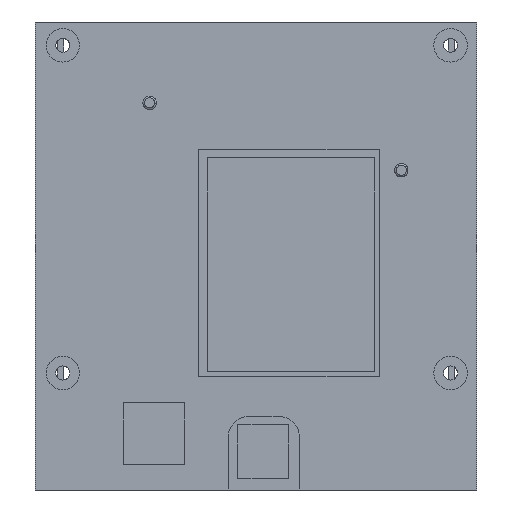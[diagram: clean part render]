
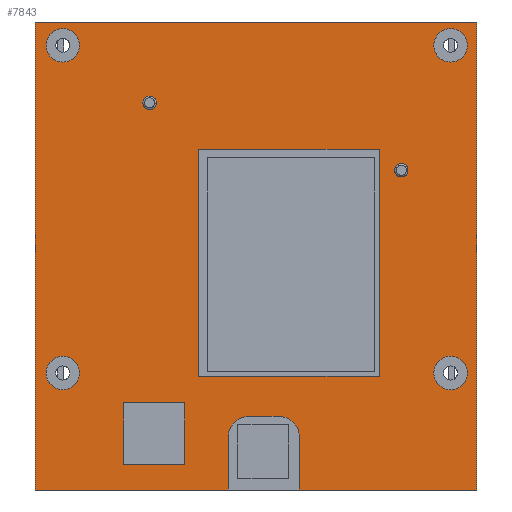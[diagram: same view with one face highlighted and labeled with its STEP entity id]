
A CAD part, front view. The second image highlights one B-rep face of the part: STEP entity #7843.
In plain terms, the highlighted planar face has unit normal (0, -1, 0).
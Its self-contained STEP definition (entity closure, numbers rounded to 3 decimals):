
#2=DIRECTION('',(-1.,0.,0.));
#3=VECTOR('',#2,66.);
#4=CARTESIAN_POINT('',(33.5,1.3,0.));
#5=LINE('',#4,#3);
#416=DIRECTION('',(0.,0.,-1.));
#417=VECTOR('',#416,70.);
#418=CARTESIAN_POINT('',(33.5,1.3,0.));
#419=LINE('',#418,#417);
#420=DIRECTION('',(-1.,0.,0.));
#421=VECTOR('',#420,26.535);
#422=CARTESIAN_POINT('',(33.5,1.3,-70.));
#423=LINE('',#422,#421);
#424=CARTESIAN_POINT('',(3.965,1.3,-61.995));
#425=DIRECTION('',(0.,-1.,0.));
#426=DIRECTION('',(1.,0.,0.));
#427=AXIS2_PLACEMENT_3D('',#424,#425,#426);
#429=CARTESIAN_POINT('',(-0.635,1.3,-61.995));
#430=DIRECTION('',(0.,-1.,0.));
#431=DIRECTION('',(0.,0.,1.));
#432=AXIS2_PLACEMENT_3D('',#429,#430,#431);
#434=DIRECTION('',(-1.,0.,0.));
#435=VECTOR('',#434,28.865);
#436=CARTESIAN_POINT('',(-3.635,1.3,-70.));
#437=LINE('',#436,#435);
#438=DIRECTION('',(-1.,0.,0.));
#439=VECTOR('',#438,27.);
#440=CARTESIAN_POINT('',(18.92,1.3,-19.));
#441=LINE('',#440,#439);
#442=DIRECTION('',(0.,0.,-1.));
#443=VECTOR('',#442,34.);
#444=CARTESIAN_POINT('',(-8.08,1.3,-19.));
#445=LINE('',#444,#443);
#446=DIRECTION('',(1.,0.,0.));
#447=VECTOR('',#446,27.);
#448=CARTESIAN_POINT('',(-8.08,1.3,-53.));
#449=LINE('',#448,#447);
#450=DIRECTION('',(0.,0.,1.));
#451=VECTOR('',#450,34.);
#452=CARTESIAN_POINT('',(18.92,1.3,-53.));
#453=LINE('',#452,#451);
#454=CARTESIAN_POINT('',(22.233,1.3,-22.177));
#455=DIRECTION('',(0.,-1.,0.));
#456=DIRECTION('',(-1.,0.,0.));
#457=AXIS2_PLACEMENT_3D('',#454,#455,#456);
#459=CARTESIAN_POINT('',(22.233,1.3,-22.177));
#460=DIRECTION('',(0.,-1.,0.));
#461=DIRECTION('',(1.,0.,0.));
#462=AXIS2_PLACEMENT_3D('',#459,#460,#461);
#464=CARTESIAN_POINT('',(-15.41,1.3,-12.09));
#465=DIRECTION('',(0.,-1.,0.));
#466=DIRECTION('',(-1.,0.,0.));
#467=AXIS2_PLACEMENT_3D('',#464,#465,#466);
#469=CARTESIAN_POINT('',(-15.41,1.3,-12.09));
#470=DIRECTION('',(0.,-1.,0.));
#471=DIRECTION('',(1.,0.,0.));
#472=AXIS2_PLACEMENT_3D('',#469,#470,#471);
#474=CARTESIAN_POINT('',(-28.4,1.3,-3.5));
#475=DIRECTION('',(0.,-1.,0.));
#476=DIRECTION('',(1.,0.,0.));
#477=AXIS2_PLACEMENT_3D('',#474,#475,#476);
#479=CARTESIAN_POINT('',(-28.4,1.3,-3.5));
#480=DIRECTION('',(0.,-1.,0.));
#481=DIRECTION('',(-1.,0.,0.));
#482=AXIS2_PLACEMENT_3D('',#479,#480,#481);
#484=CARTESIAN_POINT('',(29.6,1.3,-3.5));
#485=DIRECTION('',(0.,-1.,0.));
#486=DIRECTION('',(1.,0.,0.));
#487=AXIS2_PLACEMENT_3D('',#484,#485,#486);
#489=CARTESIAN_POINT('',(29.6,1.3,-3.5));
#490=DIRECTION('',(0.,-1.,0.));
#491=DIRECTION('',(-1.,0.,0.));
#492=AXIS2_PLACEMENT_3D('',#489,#490,#491);
#494=CARTESIAN_POINT('',(29.6,1.3,-52.5));
#495=DIRECTION('',(0.,-1.,0.));
#496=DIRECTION('',(1.,0.,0.));
#497=AXIS2_PLACEMENT_3D('',#494,#495,#496);
#499=CARTESIAN_POINT('',(29.6,1.3,-52.5));
#500=DIRECTION('',(0.,-1.,0.));
#501=DIRECTION('',(-1.,0.,0.));
#502=AXIS2_PLACEMENT_3D('',#499,#500,#501);
#504=CARTESIAN_POINT('',(-28.4,1.3,-52.5));
#505=DIRECTION('',(0.,-1.,0.));
#506=DIRECTION('',(1.,0.,0.));
#507=AXIS2_PLACEMENT_3D('',#504,#505,#506);
#509=CARTESIAN_POINT('',(-28.4,1.3,-52.5));
#510=DIRECTION('',(0.,-1.,0.));
#511=DIRECTION('',(-1.,0.,0.));
#512=AXIS2_PLACEMENT_3D('',#509,#510,#511);
#2900=DIRECTION('',(0.,0.,-1.));
#2901=VECTOR('',#2900,70.);
#2902=CARTESIAN_POINT('',(-32.5,1.3,0.));
#2903=LINE('',#2902,#2901);
#3658=DIRECTION('',(0.,0.,1.));
#3659=VECTOR('',#3658,8.005);
#3660=CARTESIAN_POINT('',(-3.635,1.3,-70.));
#3661=LINE('',#3660,#3659);
#3678=DIRECTION('',(1.,0.,0.));
#3679=VECTOR('',#3678,4.6);
#3680=CARTESIAN_POINT('',(-0.635,1.3,-58.995));
#3681=LINE('',#3680,#3679);
#3694=DIRECTION('',(0.,0.,-1.));
#3695=VECTOR('',#3694,8.005);
#3696=CARTESIAN_POINT('',(6.965,1.3,-61.995));
#3697=LINE('',#3696,#3695);
#6008=CARTESIAN_POINT('',(33.5,1.3,0.));
#6009=CARTESIAN_POINT('',(-32.5,1.3,0.));
#6010=VERTEX_POINT('',#6008);
#6011=VERTEX_POINT('',#6009);
#6340=CARTESIAN_POINT('',(33.5,1.3,-70.));
#6341=VERTEX_POINT('',#6340);
#6342=CARTESIAN_POINT('',(6.965,1.3,-70.));
#6343=VERTEX_POINT('',#6342);
#6344=CARTESIAN_POINT('',(6.965,1.3,-61.995));
#6345=VERTEX_POINT('',#6344);
#6346=CARTESIAN_POINT('',(3.965,1.3,-58.995));
#6347=VERTEX_POINT('',#6346);
#6348=CARTESIAN_POINT('',(-0.635,1.3,-58.995));
#6349=VERTEX_POINT('',#6348);
#6350=CARTESIAN_POINT('',(-3.635,1.3,-61.995));
#6351=VERTEX_POINT('',#6350);
#6352=CARTESIAN_POINT('',(-3.635,1.3,-70.));
#6353=VERTEX_POINT('',#6352);
#6354=CARTESIAN_POINT('',(-32.5,1.3,-70.));
#6355=VERTEX_POINT('',#6354);
#6356=CARTESIAN_POINT('',(18.92,1.3,-19.));
#6357=CARTESIAN_POINT('',(-8.08,1.3,-19.));
#6358=VERTEX_POINT('',#6356);
#6359=VERTEX_POINT('',#6357);
#6360=CARTESIAN_POINT('',(-8.08,1.3,-53.));
#6361=VERTEX_POINT('',#6360);
#6362=CARTESIAN_POINT('',(18.92,1.3,-53.));
#6363=VERTEX_POINT('',#6362);
#6364=CARTESIAN_POINT('',(21.433,1.3,-22.177));
#6365=CARTESIAN_POINT('',(23.033,1.3,-22.177));
#6366=VERTEX_POINT('',#6364);
#6367=VERTEX_POINT('',#6365);
#6368=CARTESIAN_POINT('',(-16.21,1.3,-12.09));
#6369=CARTESIAN_POINT('',(-14.61,1.3,-12.09));
#6370=VERTEX_POINT('',#6368);
#6371=VERTEX_POINT('',#6369);
#6372=CARTESIAN_POINT('',(-25.9,1.3,-3.5));
#6373=CARTESIAN_POINT('',(-30.9,1.3,-3.5));
#6374=VERTEX_POINT('',#6372);
#6375=VERTEX_POINT('',#6373);
#6376=CARTESIAN_POINT('',(32.1,1.3,-3.5));
#6377=CARTESIAN_POINT('',(27.1,1.3,-3.5));
#6378=VERTEX_POINT('',#6376);
#6379=VERTEX_POINT('',#6377);
#6380=CARTESIAN_POINT('',(32.1,1.3,-52.5));
#6381=CARTESIAN_POINT('',(27.1,1.3,-52.5));
#6382=VERTEX_POINT('',#6380);
#6383=VERTEX_POINT('',#6381);
#6384=CARTESIAN_POINT('',(-25.9,1.3,-52.5));
#6385=CARTESIAN_POINT('',(-30.9,1.3,-52.5));
#6386=VERTEX_POINT('',#6384);
#6387=VERTEX_POINT('',#6385);
#7771=CARTESIAN_POINT('',(0.,1.3,0.));
#7772=DIRECTION('',(0.,-1.,0.));
#7773=DIRECTION('',(1.,0.,0.));
#7774=AXIS2_PLACEMENT_3D('',#7771,#7772,#7773);
#7775=PLANE('',#7774);
#7776=ORIENTED_EDGE('',*,*,#7436,.F.);
#7778=ORIENTED_EDGE('',*,*,#7777,.T.);
#7780=ORIENTED_EDGE('',*,*,#7779,.T.);
#7782=ORIENTED_EDGE('',*,*,#7781,.F.);
#7784=ORIENTED_EDGE('',*,*,#7783,.T.);
#7786=ORIENTED_EDGE('',*,*,#7785,.F.);
#7788=ORIENTED_EDGE('',*,*,#7787,.T.);
#7790=ORIENTED_EDGE('',*,*,#7789,.F.);
#7792=ORIENTED_EDGE('',*,*,#7791,.T.);
#7794=ORIENTED_EDGE('',*,*,#7793,.F.);
#7795=EDGE_LOOP('',(#7776,#7778,#7780,#7782,#7784,#7786,#7788,#7790,#7792,
#7794));
#7796=FACE_OUTER_BOUND('',#7795,.F.);
#7798=ORIENTED_EDGE('',*,*,#7797,.T.);
#7800=ORIENTED_EDGE('',*,*,#7799,.T.);
#7802=ORIENTED_EDGE('',*,*,#7801,.T.);
#7804=ORIENTED_EDGE('',*,*,#7803,.T.);
#7805=EDGE_LOOP('',(#7798,#7800,#7802,#7804));
#7806=FACE_BOUND('',#7805,.F.);
#7808=ORIENTED_EDGE('',*,*,#7807,.T.);
#7810=ORIENTED_EDGE('',*,*,#7809,.T.);
#7811=EDGE_LOOP('',(#7808,#7810));
#7812=FACE_BOUND('',#7811,.F.);
#7814=ORIENTED_EDGE('',*,*,#7813,.T.);
#7816=ORIENTED_EDGE('',*,*,#7815,.T.);
#7817=EDGE_LOOP('',(#7814,#7816));
#7818=FACE_BOUND('',#7817,.F.);
#7820=ORIENTED_EDGE('',*,*,#7819,.T.);
#7822=ORIENTED_EDGE('',*,*,#7821,.T.);
#7823=EDGE_LOOP('',(#7820,#7822));
#7824=FACE_BOUND('',#7823,.F.);
#7826=ORIENTED_EDGE('',*,*,#7825,.T.);
#7828=ORIENTED_EDGE('',*,*,#7827,.T.);
#7829=EDGE_LOOP('',(#7826,#7828));
#7830=FACE_BOUND('',#7829,.F.);
#7832=ORIENTED_EDGE('',*,*,#7831,.T.);
#7834=ORIENTED_EDGE('',*,*,#7833,.T.);
#7835=EDGE_LOOP('',(#7832,#7834));
#7836=FACE_BOUND('',#7835,.F.);
#7838=ORIENTED_EDGE('',*,*,#7837,.T.);
#7840=ORIENTED_EDGE('',*,*,#7839,.T.);
#7841=EDGE_LOOP('',(#7838,#7840));
#7842=FACE_BOUND('',#7841,.F.);
#7843=ADVANCED_FACE('',(#7796,#7806,#7812,#7818,#7824,#7830,#7836,#7842),#7775,
.T.);
#428=CIRCLE('',#427,3.);
#433=CIRCLE('',#432,3.);
#458=CIRCLE('',#457,0.8);
#463=CIRCLE('',#462,0.8);
#468=CIRCLE('',#467,0.8);
#473=CIRCLE('',#472,0.8);
#478=CIRCLE('',#477,2.5);
#483=CIRCLE('',#482,2.5);
#488=CIRCLE('',#487,2.5);
#493=CIRCLE('',#492,2.5);
#498=CIRCLE('',#497,2.5);
#503=CIRCLE('',#502,2.5);
#508=CIRCLE('',#507,2.5);
#513=CIRCLE('',#512,2.5);
#7436=EDGE_CURVE('',#6010,#6011,#5,.T.);
#7777=EDGE_CURVE('',#6010,#6341,#419,.T.);
#7779=EDGE_CURVE('',#6341,#6343,#423,.T.);
#7781=EDGE_CURVE('',#6345,#6343,#3697,.T.);
#7783=EDGE_CURVE('',#6345,#6347,#428,.T.);
#7785=EDGE_CURVE('',#6349,#6347,#3681,.T.);
#7787=EDGE_CURVE('',#6349,#6351,#433,.T.);
#7789=EDGE_CURVE('',#6353,#6351,#3661,.T.);
#7791=EDGE_CURVE('',#6353,#6355,#437,.T.);
#7793=EDGE_CURVE('',#6011,#6355,#2903,.T.);
#7797=EDGE_CURVE('',#6358,#6359,#441,.T.);
#7799=EDGE_CURVE('',#6359,#6361,#445,.T.);
#7801=EDGE_CURVE('',#6361,#6363,#449,.T.);
#7803=EDGE_CURVE('',#6363,#6358,#453,.T.);
#7807=EDGE_CURVE('',#6366,#6367,#458,.T.);
#7809=EDGE_CURVE('',#6367,#6366,#463,.T.);
#7813=EDGE_CURVE('',#6370,#6371,#468,.T.);
#7815=EDGE_CURVE('',#6371,#6370,#473,.T.);
#7819=EDGE_CURVE('',#6374,#6375,#478,.T.);
#7821=EDGE_CURVE('',#6375,#6374,#483,.T.);
#7825=EDGE_CURVE('',#6378,#6379,#488,.T.);
#7827=EDGE_CURVE('',#6379,#6378,#493,.T.);
#7831=EDGE_CURVE('',#6382,#6383,#498,.T.);
#7833=EDGE_CURVE('',#6383,#6382,#503,.T.);
#7837=EDGE_CURVE('',#6386,#6387,#508,.T.);
#7839=EDGE_CURVE('',#6387,#6386,#513,.T.);
